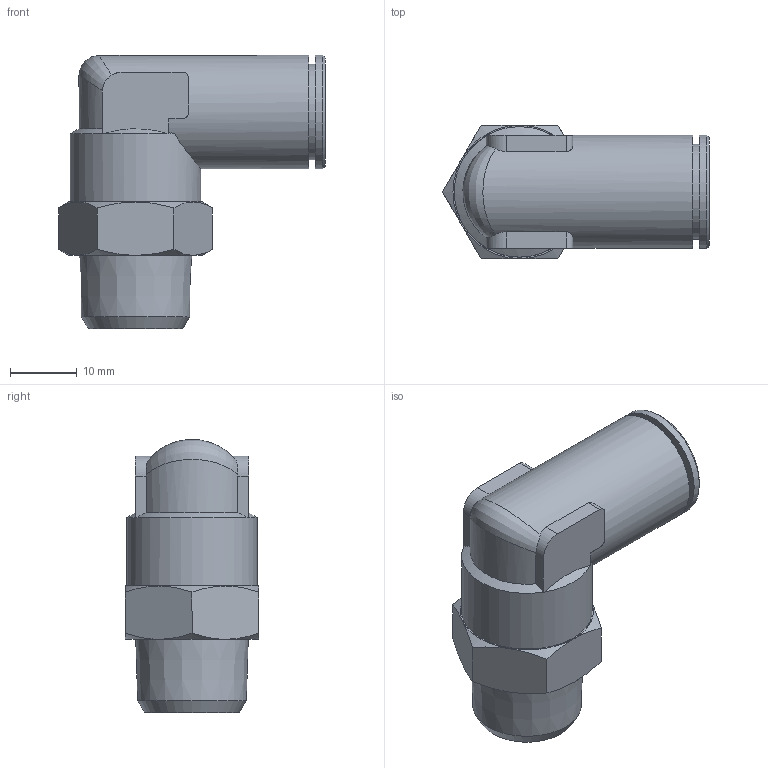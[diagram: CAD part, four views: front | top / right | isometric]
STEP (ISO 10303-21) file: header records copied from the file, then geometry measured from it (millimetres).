
FILE_DESCRIPTION(/* description */ (''),/* implementation_level */ '2;1');
FILE_NAME(/* name */ '202260-ES_STX022K_12_R38_20.06.16',/* time_stamp */ '2016-06-20T09:43:39+02:00',/* author */ (''),/* organization */ (''),/* preprocessor_version */ 'ST-DEVELOPER v16.5',/* originating_system */ 'HiCAD 2016 2101.0 Build 254',/* authorisation */ '');
FILE_SCHEMA (('AUTOMOTIVE_DESIGN { 1 0 10303 214 1 1 1 1 }'));
Length unit declared in the file: millimetre
Products named in the file (4): Root; 214639; R202210-ES; DR12
Assembly tree (3 placements, depth 2):
  Root
    214639
    R202210-ES
    DR12
Bounding box: 40.05 x 20 x 41 mm (x, y, z)
Volume: 8545.7 mm3; surface area: 8210.2 mm2
Topology: 3 solids, 3 shells, 87 faces, 193 edges, 118 vertices
Faces by surface type: plane 35, cone 29, cylinder 21, sphere 1, bspline 1
Full cylindrical faces by diameter (mm): 11 x1, 12.15 x1, 12.2 x1, 13 x1, 13.2 x1, 14.3 x1, 14.5 x1, 15.8 x2, 17 x4, 19.6 x1
Entity records: 5408 total; most frequent: CARTESIAN_POINT 1945, DIRECTION 424, PRESENTATION_STYLE_ASSIGNMENT 319, COLOUR_RGB 318, DRAUGHTING_PRE_DEFINED_CURVE_FONT 316, CURVE_STYLE 316, OVER_RIDING_STYLED_ITEM 316, ORIENTED_EDGE 316
